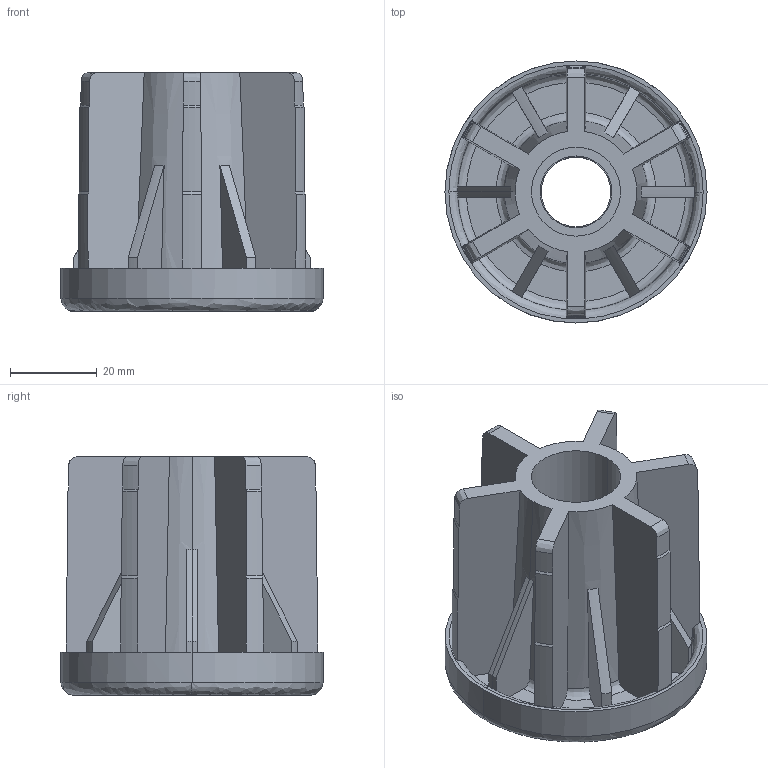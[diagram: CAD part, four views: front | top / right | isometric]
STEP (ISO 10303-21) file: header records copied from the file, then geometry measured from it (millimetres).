
FILE_DESCRIPTION (( 'STEP AP214' ), '1' );
FILE_NAME ('BTR M16.step', '2017-04-05T07:53:30', ( '' ), ( '' ), 'SwSTEP 2.0', 'SolidWorks 2015', '' );
FILE_SCHEMA (( 'AUTOMOTIVE_DESIGN' ));
Length unit declared in the file: millimetre
Products named in the file (1): BTR M16
Bounding box: 60.3 x 60.3 x 55 mm (x, y, z)
Volume: 58862.5 mm3; surface area: 25170.4 mm2
Topology: 1 solids, 1 shells, 153 faces, 427 edges, 280 vertices
Faces by surface type: cylinder 47, plane 42, bspline 34, cone 30
Entity records: 6621 total; most frequent: CARTESIAN_POINT 2989, ORIENTED_EDGE 854, DIRECTION 599, EDGE_CURVE 427, VERTEX_POINT 280, AXIS2_PLACEMENT_3D 252, B_SPLINE_CURVE_WITH_KNOTS 160, EDGE_LOOP 159
